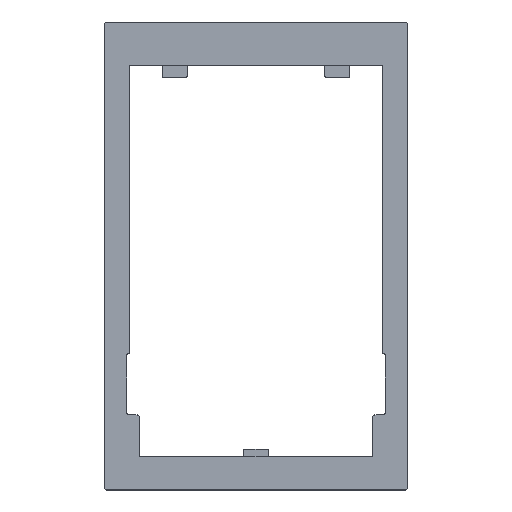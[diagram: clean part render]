
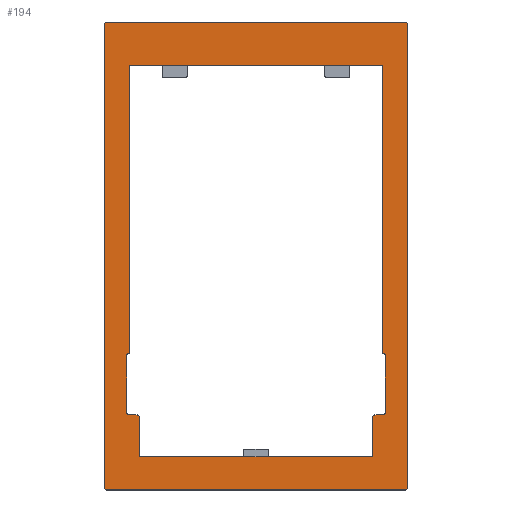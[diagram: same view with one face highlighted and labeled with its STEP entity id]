
A CAD part, top view. The second image highlights one B-rep face of the part: STEP entity #194.
In plain terms, the highlighted planar face has unit normal (0, 0, 1).
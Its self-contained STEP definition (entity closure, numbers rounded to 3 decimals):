
#127=FACE_BOUND('',#478,.T.);
#154=CIRCLE('',#2141,1.);
#155=CIRCLE('',#2142,1.);
#156=CIRCLE('',#2143,1.);
#157=CIRCLE('',#2144,0.5);
#158=CIRCLE('',#2145,0.5);
#159=CIRCLE('',#2146,1.);
#160=CIRCLE('',#2147,1.);
#161=CIRCLE('',#2148,1.);
#162=CIRCLE('',#2149,0.5);
#163=CIRCLE('',#2150,0.5);
#164=CIRCLE('',#2151,1.);
#165=CIRCLE('',#2152,1.);
#166=CIRCLE('',#2153,1.);
#167=CIRCLE('',#2154,1.);
#194=ADVANCED_FACE('',(#127,#372),#296,.T.);
#296=PLANE('',#2155);
#372=FACE_OUTER_BOUND('',#479,.T.);
#478=EDGE_LOOP('',(#734,#735,#736,#737,#738,#739,#740,#741,#742,#743,#744,
#745,#746,#747,#748,#749,#750,#751,#752,#753));
#479=EDGE_LOOP('',(#754,#755,#756,#757,#758,#759,#760,#761));
#734=ORIENTED_EDGE('',*,*,#1473,.F.);
#735=ORIENTED_EDGE('',*,*,#1474,.T.);
#736=ORIENTED_EDGE('',*,*,#1475,.F.);
#737=ORIENTED_EDGE('',*,*,#1476,.T.);
#738=ORIENTED_EDGE('',*,*,#1477,.F.);
#739=ORIENTED_EDGE('',*,*,#1478,.T.);
#740=ORIENTED_EDGE('',*,*,#1479,.F.);
#741=ORIENTED_EDGE('',*,*,#1480,.T.);
#742=ORIENTED_EDGE('',*,*,#1481,.T.);
#743=ORIENTED_EDGE('',*,*,#1482,.T.);
#744=ORIENTED_EDGE('',*,*,#1483,.T.);
#745=ORIENTED_EDGE('',*,*,#1484,.T.);
#746=ORIENTED_EDGE('',*,*,#1485,.T.);
#747=ORIENTED_EDGE('',*,*,#1486,.T.);
#748=ORIENTED_EDGE('',*,*,#1487,.F.);
#749=ORIENTED_EDGE('',*,*,#1488,.T.);
#750=ORIENTED_EDGE('',*,*,#1489,.T.);
#751=ORIENTED_EDGE('',*,*,#1490,.T.);
#752=ORIENTED_EDGE('',*,*,#1491,.F.);
#753=ORIENTED_EDGE('',*,*,#1492,.T.);
#754=ORIENTED_EDGE('',*,*,#1459,.F.);
#755=ORIENTED_EDGE('',*,*,#1493,.T.);
#756=ORIENTED_EDGE('',*,*,#1465,.F.);
#757=ORIENTED_EDGE('',*,*,#1494,.T.);
#758=ORIENTED_EDGE('',*,*,#1495,.F.);
#759=ORIENTED_EDGE('',*,*,#1496,.T.);
#760=ORIENTED_EDGE('',*,*,#1471,.F.);
#761=ORIENTED_EDGE('',*,*,#1497,.T.);
#1256=VERTEX_POINT('',#3046);
#1257=VERTEX_POINT('',#3048);
#1259=VERTEX_POINT('',#3056);
#1260=VERTEX_POINT('',#3058);
#1262=VERTEX_POINT('',#3067);
#1263=VERTEX_POINT('',#3069);
#1264=VERTEX_POINT('',#3073);
#1265=VERTEX_POINT('',#3074);
#1266=VERTEX_POINT('',#3076);
#1267=VERTEX_POINT('',#3078);
#1268=VERTEX_POINT('',#3080);
#1269=VERTEX_POINT('',#3082);
#1270=VERTEX_POINT('',#3084);
#1271=VERTEX_POINT('',#3086);
#1272=VERTEX_POINT('',#3088);
#1273=VERTEX_POINT('',#3090);
#1274=VERTEX_POINT('',#3092);
#1275=VERTEX_POINT('',#3094);
#1276=VERTEX_POINT('',#3096);
#1277=VERTEX_POINT('',#3098);
#1278=VERTEX_POINT('',#3100);
#1279=VERTEX_POINT('',#3102);
#1280=VERTEX_POINT('',#3104);
#1281=VERTEX_POINT('',#3106);
#1282=VERTEX_POINT('',#3108);
#1283=VERTEX_POINT('',#3110);
#1284=VERTEX_POINT('',#3114);
#1285=VERTEX_POINT('',#3116);
#1459=EDGE_CURVE('',#1256,#1257,#1723,.T.);
#1465=EDGE_CURVE('',#1259,#1260,#1729,.T.);
#1471=EDGE_CURVE('',#1262,#1263,#1734,.T.);
#1473=EDGE_CURVE('',#1264,#1265,#1736,.T.);
#1474=EDGE_CURVE('',#1264,#1266,#154,.T.);
#1475=EDGE_CURVE('',#1267,#1266,#1737,.T.);
#1476=EDGE_CURVE('',#1267,#1268,#155,.T.);
#1477=EDGE_CURVE('',#1269,#1268,#1738,.T.);
#1478=EDGE_CURVE('',#1269,#1270,#156,.T.);
#1479=EDGE_CURVE('',#1271,#1270,#1739,.T.);
#1480=EDGE_CURVE('',#1271,#1272,#157,.T.);
#1481=EDGE_CURVE('',#1272,#1273,#1740,.T.);
#1482=EDGE_CURVE('',#1273,#1274,#158,.T.);
#1483=EDGE_CURVE('',#1274,#1275,#1741,.T.);
#1484=EDGE_CURVE('',#1275,#1276,#159,.T.);
#1485=EDGE_CURVE('',#1276,#1277,#1742,.T.);
#1486=EDGE_CURVE('',#1277,#1278,#160,.T.);
#1487=EDGE_CURVE('',#1279,#1278,#1743,.T.);
#1488=EDGE_CURVE('',#1279,#1280,#161,.T.);
#1489=EDGE_CURVE('',#1280,#1281,#1744,.T.);
#1490=EDGE_CURVE('',#1281,#1282,#162,.T.);
#1491=EDGE_CURVE('',#1283,#1282,#1745,.T.);
#1492=EDGE_CURVE('',#1283,#1265,#163,.T.);
#1493=EDGE_CURVE('',#1256,#1260,#164,.T.);
#1494=EDGE_CURVE('',#1259,#1284,#165,.T.);
#1495=EDGE_CURVE('',#1285,#1284,#1746,.T.);
#1496=EDGE_CURVE('',#1285,#1263,#166,.T.);
#1497=EDGE_CURVE('',#1262,#1257,#167,.T.);
#1723=LINE('',#3047,#1960);
#1729=LINE('',#3057,#1966);
#1734=LINE('',#3068,#1971);
#1736=LINE('',#3072,#1973);
#1737=LINE('',#3077,#1974);
#1738=LINE('',#3081,#1975);
#1739=LINE('',#3085,#1976);
#1740=LINE('',#3089,#1977);
#1741=LINE('',#3093,#1978);
#1742=LINE('',#3097,#1979);
#1743=LINE('',#3101,#1980);
#1744=LINE('',#3105,#1981);
#1745=LINE('',#3109,#1982);
#1746=LINE('',#3115,#1983);
#1960=VECTOR('',#2424,1.);
#1966=VECTOR('',#2432,1.);
#1971=VECTOR('',#2443,1.);
#1973=VECTOR('',#2447,1.);
#1974=VECTOR('',#2450,1.);
#1975=VECTOR('',#2453,1.);
#1976=VECTOR('',#2456,1.);
#1977=VECTOR('',#2459,1.);
#1978=VECTOR('',#2462,1.);
#1979=VECTOR('',#2465,1.);
#1980=VECTOR('',#2468,1.);
#1981=VECTOR('',#2471,1.);
#1982=VECTOR('',#2474,1.);
#1983=VECTOR('',#2481,1.);
#2141=AXIS2_PLACEMENT_3D('',#3075,#2448,#2449);
#2142=AXIS2_PLACEMENT_3D('',#3079,#2451,#2452);
#2143=AXIS2_PLACEMENT_3D('',#3083,#2454,#2455);
#2144=AXIS2_PLACEMENT_3D('',#3087,#2457,#2458);
#2145=AXIS2_PLACEMENT_3D('',#3091,#2460,#2461);
#2146=AXIS2_PLACEMENT_3D('',#3095,#2463,#2464);
#2147=AXIS2_PLACEMENT_3D('',#3099,#2466,#2467);
#2148=AXIS2_PLACEMENT_3D('',#3103,#2469,#2470);
#2149=AXIS2_PLACEMENT_3D('',#3107,#2472,#2473);
#2150=AXIS2_PLACEMENT_3D('',#3111,#2475,#2476);
#2151=AXIS2_PLACEMENT_3D('',#3112,#2477,#2478);
#2152=AXIS2_PLACEMENT_3D('',#3113,#2479,#2480);
#2153=AXIS2_PLACEMENT_3D('',#3117,#2482,#2483);
#2154=AXIS2_PLACEMENT_3D('',#3118,#2484,#2485);
#2155=AXIS2_PLACEMENT_3D('',#3119,#2486,#2487);
#2424=DIRECTION('',(1.,0.,0.));
#2432=DIRECTION('',(0.,1.,0.));
#2443=DIRECTION('',(0.,-1.,0.));
#2447=DIRECTION('',(0.,-1.,0.));
#2448=DIRECTION('',(0.,0.,1.));
#2449=DIRECTION('',(1.,0.,0.));
#2450=DIRECTION('',(1.,0.,0.));
#2451=DIRECTION('',(0.,0.,-1.));
#2452=DIRECTION('',(1.,0.,0.));
#2453=DIRECTION('',(0.,-1.,0.));
#2454=DIRECTION('',(0.,0.,-1.));
#2455=DIRECTION('',(1.,0.,0.));
#2456=DIRECTION('',(0.,-1.,0.));
#2457=DIRECTION('',(0.,0.,-1.));
#2458=DIRECTION('',(1.,0.,0.));
#2459=DIRECTION('',(1.,0.,0.));
#2460=DIRECTION('',(0.,0.,-1.));
#2461=DIRECTION('',(1.,0.,0.));
#2462=DIRECTION('',(0.,-1.,0.));
#2463=DIRECTION('',(0.,0.,-1.));
#2464=DIRECTION('',(1.,0.,0.));
#2465=DIRECTION('',(0.,-1.,0.));
#2466=DIRECTION('',(0.,0.,-1.));
#2467=DIRECTION('',(1.,0.,0.));
#2468=DIRECTION('',(1.,0.,0.));
#2469=DIRECTION('',(0.,0.,1.));
#2470=DIRECTION('',(1.,0.,0.));
#2471=DIRECTION('',(0.,-1.,0.));
#2472=DIRECTION('',(0.,0.,-1.));
#2473=DIRECTION('',(1.,0.,0.));
#2474=DIRECTION('',(1.,0.,0.));
#2475=DIRECTION('',(0.,0.,-1.));
#2476=DIRECTION('',(1.,0.,0.));
#2477=DIRECTION('',(0.,0.,1.));
#2478=DIRECTION('',(1.,0.,0.));
#2479=DIRECTION('',(0.,0.,1.));
#2480=DIRECTION('',(1.,0.,0.));
#2481=DIRECTION('',(-1.,0.,0.));
#2482=DIRECTION('',(0.,0.,1.));
#2483=DIRECTION('',(1.,0.,0.));
#2484=DIRECTION('',(0.,0.,1.));
#2485=DIRECTION('',(1.,0.,0.));
#2486=DIRECTION('',(0.,0.,1.));
#2487=DIRECTION('',(1.,0.,0.));
#3046=CARTESIAN_POINT('',(1.,190.,2.));
#3047=CARTESIAN_POINT('',(61.5,190.,2.));
#3048=CARTESIAN_POINT('',(122.,190.,2.));
#3056=CARTESIAN_POINT('',(0.,1.,2.));
#3057=CARTESIAN_POINT('',(0.,95.,2.));
#3058=CARTESIAN_POINT('',(0.,189.,2.));
#3067=CARTESIAN_POINT('',(123.,189.,2.));
#3068=CARTESIAN_POINT('',(123.,95.,2.));
#3069=CARTESIAN_POINT('',(123.,1.,2.));
#3072=CARTESIAN_POINT('',(14.2,172.5,2.));
#3073=CARTESIAN_POINT('',(14.2,29.5,2.));
#3074=CARTESIAN_POINT('',(14.2,14.,2.));
#3075=CARTESIAN_POINT('',(13.2,29.5,2.));
#3076=CARTESIAN_POINT('',(13.2,30.5,2.));
#3077=CARTESIAN_POINT('',(10.,30.5,2.));
#3078=CARTESIAN_POINT('',(10.,30.5,2.));
#3079=CARTESIAN_POINT('',(10.,31.5,2.));
#3080=CARTESIAN_POINT('',(9.,31.5,2.));
#3081=CARTESIAN_POINT('',(9.,55.5,2.));
#3082=CARTESIAN_POINT('',(9.,54.5,2.));
#3083=CARTESIAN_POINT('',(10.,54.5,2.));
#3084=CARTESIAN_POINT('',(10.,55.5,2.));
#3085=CARTESIAN_POINT('',(10.,172.5,2.));
#3086=CARTESIAN_POINT('',(10.,172.,2.));
#3087=CARTESIAN_POINT('',(10.5,172.,2.));
#3088=CARTESIAN_POINT('',(10.5,172.5,2.));
#3089=CARTESIAN_POINT('',(14.2,172.5,2.));
#3090=CARTESIAN_POINT('',(112.5,172.5,2.));
#3091=CARTESIAN_POINT('',(112.5,172.,2.));
#3092=CARTESIAN_POINT('',(113.,172.,2.));
#3093=CARTESIAN_POINT('',(113.,172.5,2.));
#3094=CARTESIAN_POINT('',(113.,55.5,2.));
#3095=CARTESIAN_POINT('',(113.,54.5,2.));
#3096=CARTESIAN_POINT('',(114.,54.5,2.));
#3097=CARTESIAN_POINT('',(114.,55.5,2.));
#3098=CARTESIAN_POINT('',(114.,31.5,2.));
#3099=CARTESIAN_POINT('',(113.,31.5,2.));
#3100=CARTESIAN_POINT('',(113.,30.5,2.));
#3101=CARTESIAN_POINT('',(10.,30.5,2.));
#3102=CARTESIAN_POINT('',(109.8,30.5,2.));
#3103=CARTESIAN_POINT('',(109.8,29.5,2.));
#3104=CARTESIAN_POINT('',(108.8,29.5,2.));
#3105=CARTESIAN_POINT('',(108.8,172.5,2.));
#3106=CARTESIAN_POINT('',(108.8,14.,2.));
#3107=CARTESIAN_POINT('',(108.3,14.,2.));
#3108=CARTESIAN_POINT('',(108.3,13.5,2.));
#3109=CARTESIAN_POINT('',(14.2,13.5,2.));
#3110=CARTESIAN_POINT('',(14.7,13.5,2.));
#3111=CARTESIAN_POINT('',(14.7,14.,2.));
#3112=CARTESIAN_POINT('',(1.,189.,2.));
#3113=CARTESIAN_POINT('',(1.,1.,2.));
#3114=CARTESIAN_POINT('',(1.,0.,2.));
#3115=CARTESIAN_POINT('',(61.5,0.,2.));
#3116=CARTESIAN_POINT('',(122.,0.,2.));
#3117=CARTESIAN_POINT('',(122.,1.,2.));
#3118=CARTESIAN_POINT('',(122.,189.,2.));
#3119=CARTESIAN_POINT('',(61.5,95.,2.));
